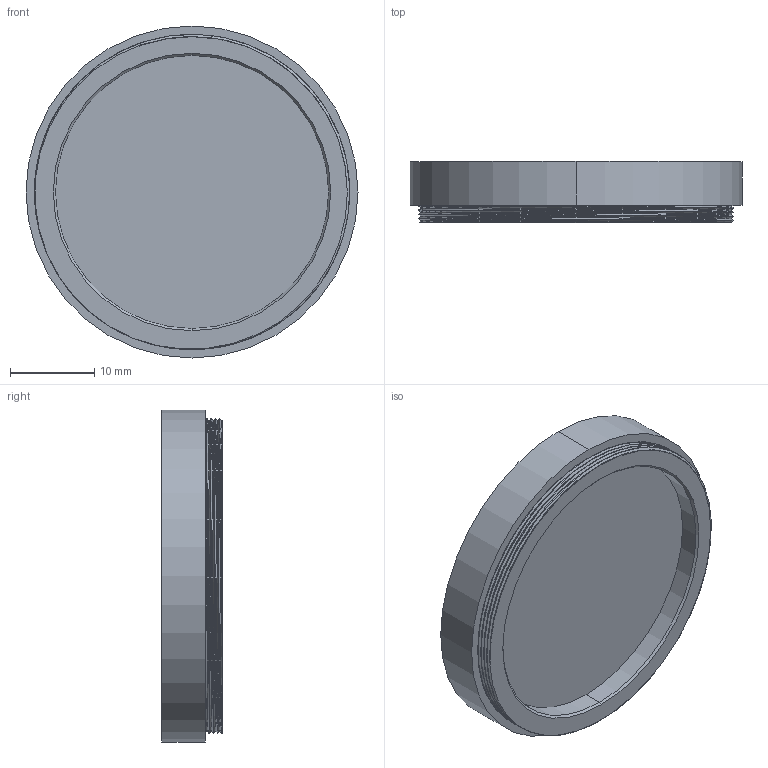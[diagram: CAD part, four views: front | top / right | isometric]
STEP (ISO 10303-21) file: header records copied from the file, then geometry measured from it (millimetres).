
FILE_DESCRIPTION (( 'STEP AP214' ), '1' );
FILE_NAME ('M37.5 x P0.5.STEP', '2023-01-19T08:17:54', ( '' ), ( '' ), 'SwSTEP 2.0', 'SolidWorks 2021', '' );
FILE_SCHEMA (( 'AUTOMOTIVE_DESIGN' ));
Length unit declared in the file: millimetre
Products named in the file (1): M37.5 x P0.5
Bounding box: 39.5 x 7.2 x 39.5 mm (x, y, z)
Volume: 2051.7 mm3; surface area: 5256.6 mm2
Topology: 3 solids, 3 shells, 50 faces, 122 edges, 81 vertices
Faces by surface type: cylinder 32, plane 10, bspline 6, cone 2
Entity records: 2880 total; most frequent: CARTESIAN_POINT 1785, ORIENTED_EDGE 244, DIRECTION 189, EDGE_CURVE 122, VERTEX_POINT 81, AXIS2_PLACEMENT_3D 78, EDGE_LOOP 57, FACE_OUTER_BOUND 50
